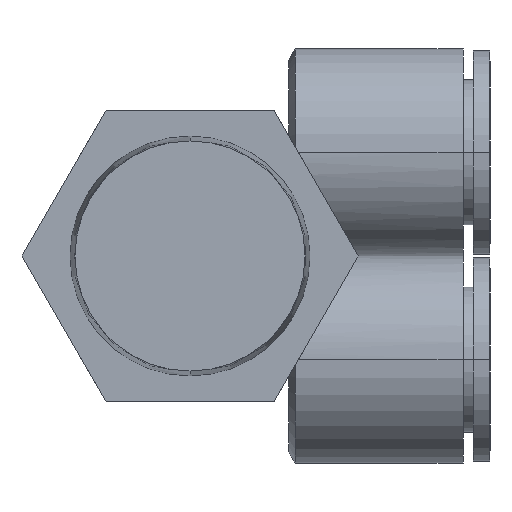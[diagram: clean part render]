
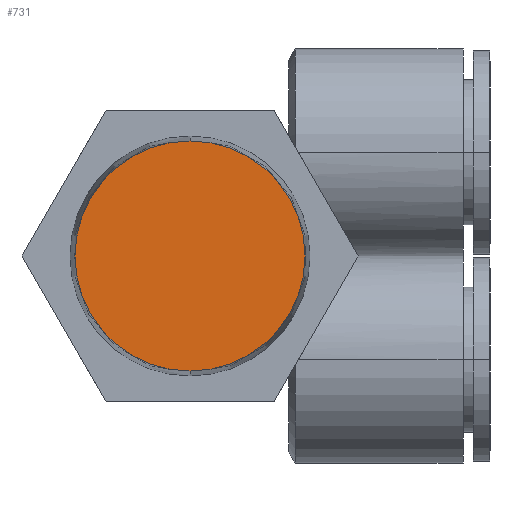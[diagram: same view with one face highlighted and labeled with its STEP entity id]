
A CAD part, front view. The second image highlights one B-rep face of the part: STEP entity #731.
In plain terms, the highlighted planar face has unit normal (0, -1, 0).
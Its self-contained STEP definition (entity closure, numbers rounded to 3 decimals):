
#76 = DIRECTION ( 'NONE',  ( 0., 0., -1. ) ) ;
#85 = DIRECTION ( 'NONE',  ( 0., 0., -1. ) ) ;
#458 = DIRECTION ( 'NONE',  ( 0., 0., -1. ) ) ;
#490 = AXIS2_PLACEMENT_3D ( 'NONE', #3376, #1850, #76 ) ;
#653 = AXIS2_PLACEMENT_3D ( 'NONE', #679, #3200, #458 ) ;
#679 = CARTESIAN_POINT ( 'NONE',  ( 0., -6.4, 0. ) ) ;
#731 = ADVANCED_FACE ( 'NONE', ( #939 ), #3125, .T. ) ;
#939 = FACE_OUTER_BOUND ( 'NONE', #2344, .T. ) ;
#960 = AXIS2_PLACEMENT_3D ( 'NONE', #3407, #3147, #85 ) ;
#1622 = VERTEX_POINT ( 'NONE', #2073 ) ;
#1747 = ORIENTED_EDGE ( 'NONE', *, *, #3175, .T. ) ;
#1850 = DIRECTION ( 'NONE',  ( 0., -1., 0. ) ) ;
#1869 = CIRCLE ( 'NONE', #653, 10.278 ) ;
#2073 = CARTESIAN_POINT ( 'NONE',  ( 0., -6.4, 10.278 ) ) ;
#2215 = CIRCLE ( 'NONE', #490, 10.278 ) ;
#2344 = EDGE_LOOP ( 'NONE', ( #3271, #1747 ) ) ;
#2767 = VERTEX_POINT ( 'NONE', #3497 ) ;
#3125 = PLANE ( 'NONE',  #960 ) ;
#3147 = DIRECTION ( 'NONE',  ( 0., -1., 0. ) ) ;
#3175 = EDGE_CURVE ( 'NONE', #2767, #1622, #1869, .T. ) ;
#3200 = DIRECTION ( 'NONE',  ( 0., -1., 0. ) ) ;
#3271 = ORIENTED_EDGE ( 'NONE', *, *, #3684, .T. ) ;
#3376 = CARTESIAN_POINT ( 'NONE',  ( 0., -6.4, 0. ) ) ;
#3407 = CARTESIAN_POINT ( 'NONE',  ( 13., -6.4, 26. ) ) ;
#3497 = CARTESIAN_POINT ( 'NONE',  ( 0., -6.4, -10.278 ) ) ;
#3684 = EDGE_CURVE ( 'NONE', #1622, #2767, #2215, .T. ) ;
